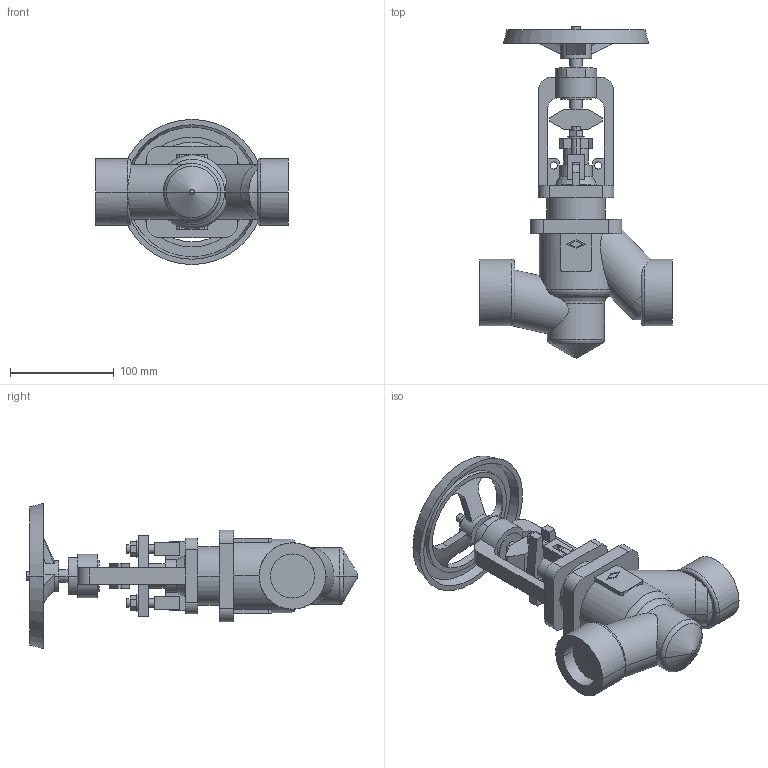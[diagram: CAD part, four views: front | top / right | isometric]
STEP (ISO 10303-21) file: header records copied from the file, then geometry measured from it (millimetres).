
FILE_DESCRIPTION(('OneSpaceDesigner STEP Export'),'2;1');
FILE_NAME('c000004274.stp','2010-05-04T11:19:22',(''),(''),'OneSpace Designer STEP processor for AP214 (Solid Model)','OneSpace Modeling 15.50B 03-Nov-2007 (C) CoCreate Software GmbH','');
FILE_SCHEMA(('AUTOMOTIVE_DESIGN { 1 0 10303 214 1 1 1 1 }'));
Length unit declared in the file: millimetre
Products named in the file (1): 1
Bounding box: 186 x 320.03 x 140 mm (x, y, z)
Volume: 1156939.5 mm3; surface area: 157938.9 mm2
Topology: 1 solids, 1 shells, 282 faces, 738 edges, 480 vertices
Faces by surface type: plane 149, cylinder 93, cone 24, torus 14, sphere 2
Entity records: 11008 total; most frequent: CARTESIAN_POINT 2131, ORIENTED_EDGE 1476, DIRECTION 1246, EDGE_CURVE 738, VERTEX_POINT 480, VECTOR 432, LINE 432, AXIS2_PLACEMENT_3D 407
